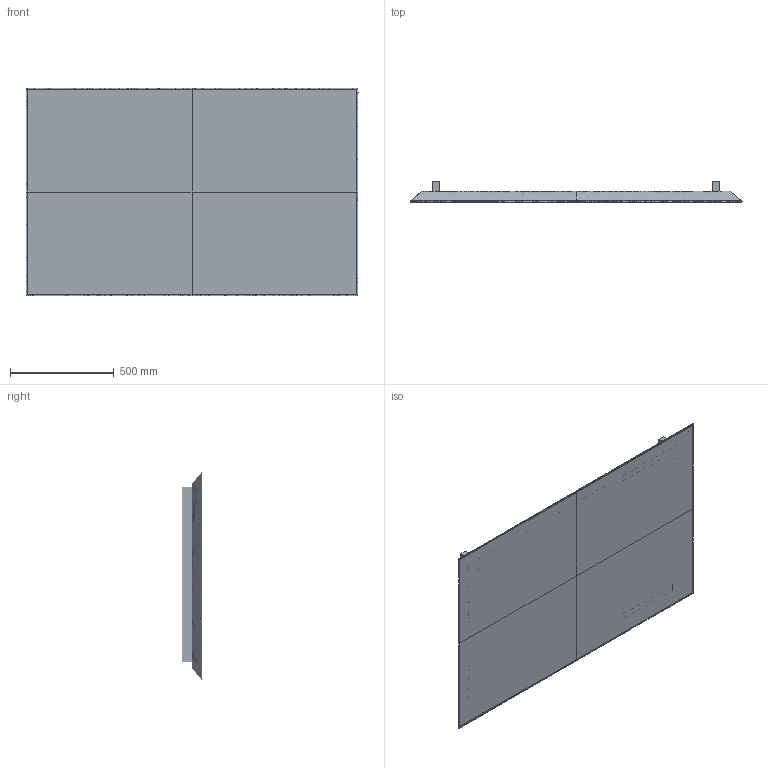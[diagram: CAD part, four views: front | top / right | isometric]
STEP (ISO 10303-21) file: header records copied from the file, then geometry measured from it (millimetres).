
FILE_DESCRIPTION(/* description */ (''),/* implementation_level */ '2;1');
FILE_NAME(/* name */ 'Mirage_TV_160x100_55p',/* time_stamp */ '2016-09-21T17:07:31+02:00',/* author */ (''),/* organization */ (''),/* preprocessor_version */ 'ST-DEVELOPER v10',/* originating_system */ '',/* authorisation */ '');
FILE_SCHEMA (('CONFIG_CONTROL_DESIGN'));
Length unit declared in the file: millimetre
Products named in the file (1): 1
Bounding box: 1600 x 95.5 x 1000 mm (x, y, z)
Volume: 22144473.4 mm3; surface area: 5013509.3 mm2
Topology: 6 solids, 6 shells, 60 faces, 124 edges, 74 vertices
Faces by surface type: plane 40, bspline 20
Entity records: 5356 total; most frequent: CARTESIAN_POINT 4368, ORIENTED_EDGE 248, EDGE_CURVE 124, B_SPLINE_CURVE_WITH_KNOTS 116, VERTEX_POINT 74, EDGE_LOOP 64, ADVANCED_FACE 60, FACE_OUTER_BOUND 60
